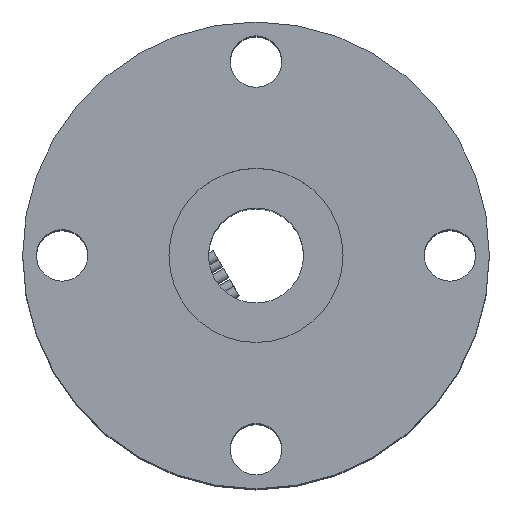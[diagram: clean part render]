
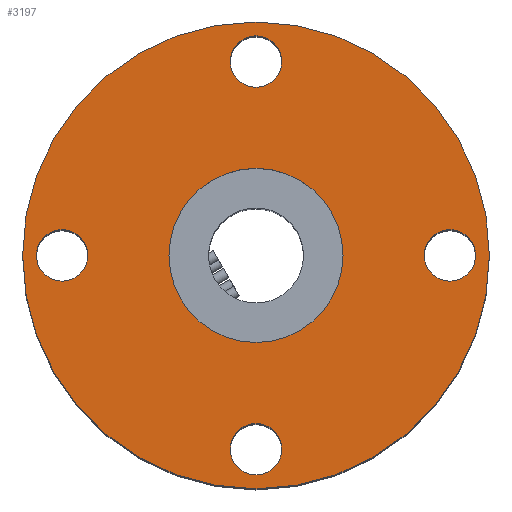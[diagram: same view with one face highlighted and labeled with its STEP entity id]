
A CAD part, top view. The second image highlights one B-rep face of the part: STEP entity #3197.
In plain terms, the highlighted planar face has unit normal (0, 0, 1).
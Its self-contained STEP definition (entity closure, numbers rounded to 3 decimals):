
#100 = CARTESIAN_POINT ( 'NONE',  ( 0., 0., 42.5 ) ) ;
#103 = DIRECTION ( 'NONE',  ( 0., 0., 1. ) ) ;
#145 = EDGE_CURVE ( 'NONE', #212, #1520, #300, .T. ) ;
#158 = CARTESIAN_POINT ( 'NONE',  ( -24.5, 0., 42.5 ) ) ;
#212 = VERTEX_POINT ( 'NONE', #4083 ) ;
#252 = DIRECTION ( 'NONE',  ( 0., 0., 1. ) ) ;
#278 = FACE_BOUND ( 'NONE', #4720, .T. ) ;
#290 = CARTESIAN_POINT ( 'NONE',  ( 3.25, 24.5, 42.5 ) ) ;
#297 = CARTESIAN_POINT ( 'NONE',  ( 24.5, -3.25, 42.5 ) ) ;
#300 = CIRCLE ( 'NONE', #1665, 3.25 ) ;
#420 = FACE_BOUND ( 'NONE', #1737, .T. ) ;
#421 = VERTEX_POINT ( 'NONE', #1141 ) ;
#474 = DIRECTION ( 'NONE',  ( 1., 0., 0. ) ) ;
#506 = DIRECTION ( 'NONE',  ( 0., 0., 1. ) ) ;
#510 = DIRECTION ( 'NONE',  ( 0., 0., 1. ) ) ;
#536 = DIRECTION ( 'NONE',  ( 0., 1., 0. ) ) ;
#617 = VERTEX_POINT ( 'NONE', #297 ) ;
#631 = CIRCLE ( 'NONE', #4758, 3.25 ) ;
#674 = EDGE_CURVE ( 'NONE', #2658, #2679, #4718, .T. ) ;
#779 = ORIENTED_EDGE ( 'NONE', *, *, #674, .F. ) ;
#792 = VERTEX_POINT ( 'NONE', #3305 ) ;
#808 = AXIS2_PLACEMENT_3D ( 'NONE', #2353, #103, #2740 ) ;
#837 = CIRCLE ( 'NONE', #4666, 29.5 ) ;
#877 = CARTESIAN_POINT ( 'NONE',  ( -24.5, -3.25, 42.5 ) ) ;
#991 = EDGE_LOOP ( 'NONE', ( #2342, #2640 ) ) ;
#1107 = VERTEX_POINT ( 'NONE', #3151 ) ;
#1141 = CARTESIAN_POINT ( 'NONE',  ( 24.5, 3.25, 42.5 ) ) ;
#1145 = ORIENTED_EDGE ( 'NONE', *, *, #4622, .T. ) ;
#1194 = ORIENTED_EDGE ( 'NONE', *, *, #2021, .T. ) ;
#1241 = CIRCLE ( 'NONE', #4262, 11. ) ;
#1315 = AXIS2_PLACEMENT_3D ( 'NONE', #1886, #4514, #2266 ) ;
#1339 = CARTESIAN_POINT ( 'NONE',  ( 0., 0., 42.5 ) ) ;
#1350 = CARTESIAN_POINT ( 'NONE',  ( 0., 24.5, 42.5 ) ) ;
#1394 = ORIENTED_EDGE ( 'NONE', *, *, #4180, .F. ) ;
#1433 = VERTEX_POINT ( 'NONE', #3457 ) ;
#1462 = CARTESIAN_POINT ( 'NONE',  ( 0., -24.5, 42.5 ) ) ;
#1482 = DIRECTION ( 'NONE',  ( 0., 0., 1. ) ) ;
#1520 = VERTEX_POINT ( 'NONE', #1831 ) ;
#1577 = VERTEX_POINT ( 'NONE', #4486 ) ;
#1665 = AXIS2_PLACEMENT_3D ( 'NONE', #1462, #4122, #1844 ) ;
#1701 = CIRCLE ( 'NONE', #4138, 3.25 ) ;
#1721 = DIRECTION ( 'NONE',  ( 1., 0., 0. ) ) ;
#1729 = DIRECTION ( 'NONE',  ( 1., 0., 0. ) ) ;
#1737 = EDGE_LOOP ( 'NONE', ( #3563, #3405 ) ) ;
#1739 = EDGE_CURVE ( 'NONE', #1433, #2336, #1241, .T. ) ;
#1788 = AXIS2_PLACEMENT_3D ( 'NONE', #1339, #3980, #1721 ) ;
#1831 = CARTESIAN_POINT ( 'NONE',  ( 3.25, -24.5, 42.5 ) ) ;
#1844 = DIRECTION ( 'NONE',  ( -1., 0., 0. ) ) ;
#1850 = DIRECTION ( 'NONE',  ( 0., 0., 1. ) ) ;
#1886 = CARTESIAN_POINT ( 'NONE',  ( 0., -24.5, 42.5 ) ) ;
#1899 = CARTESIAN_POINT ( 'NONE',  ( 0., 0., 42.5 ) ) ;
#2021 = EDGE_CURVE ( 'NONE', #1107, #1577, #837, .T. ) ;
#2081 = AXIS2_PLACEMENT_3D ( 'NONE', #2764, #506, #3148 ) ;
#2266 = DIRECTION ( 'NONE',  ( -1., 0., 0. ) ) ;
#2272 = DIRECTION ( 'NONE',  ( 1., 0., 0. ) ) ;
#2288 = CIRCLE ( 'NONE', #808, 3.25 ) ;
#2310 = ORIENTED_EDGE ( 'NONE', *, *, #3525, .F. ) ;
#2336 = VERTEX_POINT ( 'NONE', #2966 ) ;
#2342 = ORIENTED_EDGE ( 'NONE', *, *, #145, .F. ) ;
#2353 = CARTESIAN_POINT ( 'NONE',  ( 24.5, 0., 42.5 ) ) ;
#2416 = ORIENTED_EDGE ( 'NONE', *, *, #4319, .F. ) ;
#2427 = AXIS2_PLACEMENT_3D ( 'NONE', #3262, #252, #2898 ) ;
#2542 = ORIENTED_EDGE ( 'NONE', *, *, #2795, .F. ) ;
#2640 = ORIENTED_EDGE ( 'NONE', *, *, #3357, .F. ) ;
#2658 = VERTEX_POINT ( 'NONE', #4038 ) ;
#2679 = VERTEX_POINT ( 'NONE', #290 ) ;
#2709 = CIRCLE ( 'NONE', #1788, 29.5 ) ;
#2737 = DIRECTION ( 'NONE',  ( 0., 0., 1. ) ) ;
#2740 = DIRECTION ( 'NONE',  ( 0., -1., 0. ) ) ;
#2764 = CARTESIAN_POINT ( 'NONE',  ( 24.5, 0., 42.5 ) ) ;
#2773 = CARTESIAN_POINT ( 'NONE',  ( 0., 0., 42.5 ) ) ;
#2793 = DIRECTION ( 'NONE',  ( 0., 0., 1. ) ) ;
#2795 = EDGE_CURVE ( 'NONE', #3797, #792, #1701, .T. ) ;
#2806 = AXIS2_PLACEMENT_3D ( 'NONE', #158, #2793, #536 ) ;
#2898 = DIRECTION ( 'NONE',  ( 1., 0., 0. ) ) ;
#2918 = CIRCLE ( 'NONE', #2806, 3.25 ) ;
#2966 = CARTESIAN_POINT ( 'NONE',  ( 11., 0., 42.5 ) ) ;
#3004 = ORIENTED_EDGE ( 'NONE', *, *, #4033, .F. ) ;
#3148 = DIRECTION ( 'NONE',  ( 0., -1., 0. ) ) ;
#3151 = CARTESIAN_POINT ( 'NONE',  ( -29.5, 0., 42.5 ) ) ;
#3152 = DIRECTION ( 'NONE',  ( 1., 0., 0. ) ) ;
#3175 = FACE_OUTER_BOUND ( 'NONE', #4127, .T. ) ;
#3197 = ADVANCED_FACE ( 'NONE', ( #420, #4295, #3291, #278, #4185, #3175 ), #4385, .T. ) ;
#3237 = EDGE_LOOP ( 'NONE', ( #2416, #779 ) ) ;
#3262 = CARTESIAN_POINT ( 'NONE',  ( 0., 0., 42.5 ) ) ;
#3291 = FACE_BOUND ( 'NONE', #991, .T. ) ;
#3305 = CARTESIAN_POINT ( 'NONE',  ( -24.5, 3.25, 42.5 ) ) ;
#3357 = EDGE_CURVE ( 'NONE', #1520, #212, #4467, .T. ) ;
#3405 = ORIENTED_EDGE ( 'NONE', *, *, #1739, .F. ) ;
#3457 = CARTESIAN_POINT ( 'NONE',  ( -11., 0., 42.5 ) ) ;
#3486 = CIRCLE ( 'NONE', #4510, 11. ) ;
#3518 = AXIS2_PLACEMENT_3D ( 'NONE', #4107, #1850, #4489 ) ;
#3525 = EDGE_CURVE ( 'NONE', #617, #421, #3895, .T. ) ;
#3563 = ORIENTED_EDGE ( 'NONE', *, *, #3826, .F. ) ;
#3754 = CARTESIAN_POINT ( 'NONE',  ( -24.5, 0., 42.5 ) ) ;
#3797 = VERTEX_POINT ( 'NONE', #877 ) ;
#3826 = EDGE_CURVE ( 'NONE', #2336, #1433, #3486, .T. ) ;
#3895 = CIRCLE ( 'NONE', #2081, 3.25 ) ;
#3980 = DIRECTION ( 'NONE',  ( 0., 0., 1. ) ) ;
#3984 = EDGE_LOOP ( 'NONE', ( #1394, #2542 ) ) ;
#3986 = DIRECTION ( 'NONE',  ( 0., 0., 1. ) ) ;
#4033 = EDGE_CURVE ( 'NONE', #421, #617, #2288, .T. ) ;
#4038 = CARTESIAN_POINT ( 'NONE',  ( -3.25, 24.5, 42.5 ) ) ;
#4083 = CARTESIAN_POINT ( 'NONE',  ( -3.25, -24.5, 42.5 ) ) ;
#4107 = CARTESIAN_POINT ( 'NONE',  ( 0., 24.5, 42.5 ) ) ;
#4120 = DIRECTION ( 'NONE',  ( 0., 1., 0. ) ) ;
#4122 = DIRECTION ( 'NONE',  ( 0., 0., 1. ) ) ;
#4127 = EDGE_LOOP ( 'NONE', ( #1194, #1145 ) ) ;
#4138 = AXIS2_PLACEMENT_3D ( 'NONE', #3754, #1482, #4120 ) ;
#4180 = EDGE_CURVE ( 'NONE', #792, #3797, #2918, .T. ) ;
#4185 = FACE_BOUND ( 'NONE', #3237, .T. ) ;
#4262 = AXIS2_PLACEMENT_3D ( 'NONE', #100, #2737, #474 ) ;
#4295 = FACE_BOUND ( 'NONE', #3984, .T. ) ;
#4319 = EDGE_CURVE ( 'NONE', #2679, #2658, #631, .T. ) ;
#4385 = PLANE ( 'NONE',  #2427 ) ;
#4467 = CIRCLE ( 'NONE', #1315, 3.25 ) ;
#4486 = CARTESIAN_POINT ( 'NONE',  ( 29.5, 0., 42.5 ) ) ;
#4489 = DIRECTION ( 'NONE',  ( 1., 0., 0. ) ) ;
#4510 = AXIS2_PLACEMENT_3D ( 'NONE', #2773, #510, #3152 ) ;
#4514 = DIRECTION ( 'NONE',  ( 0., 0., 1. ) ) ;
#4521 = DIRECTION ( 'NONE',  ( 0., 0., 1. ) ) ;
#4622 = EDGE_CURVE ( 'NONE', #1577, #1107, #2709, .T. ) ;
#4666 = AXIS2_PLACEMENT_3D ( 'NONE', #1899, #4521, #2272 ) ;
#4718 = CIRCLE ( 'NONE', #3518, 3.25 ) ;
#4720 = EDGE_LOOP ( 'NONE', ( #2310, #3004 ) ) ;
#4758 = AXIS2_PLACEMENT_3D ( 'NONE', #1350, #3986, #1729 ) ;
